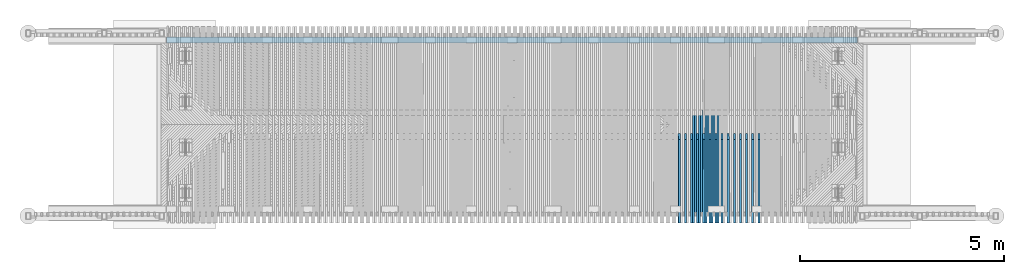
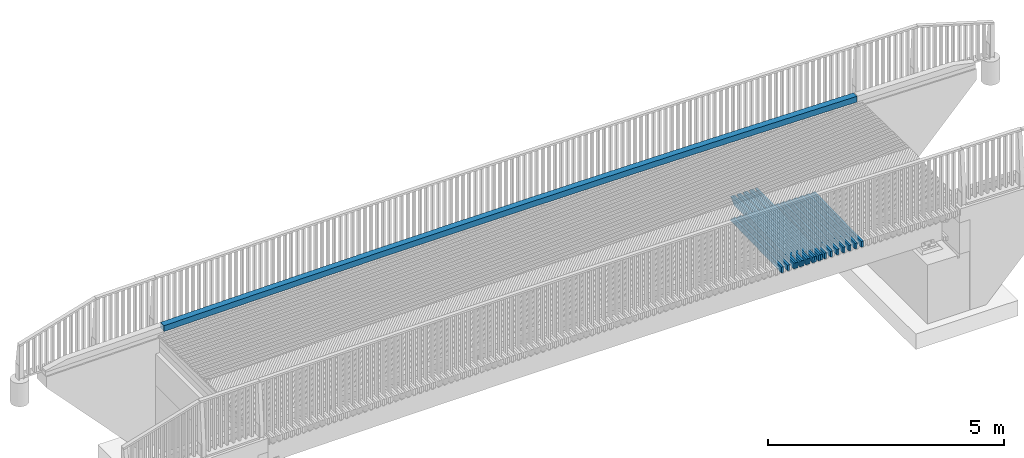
# One storey, part 36 of 47: 24 beams.
"""IFC2X3 building model written with IfcOpenShell, lengths in millimetres."""

from ifc_helpers import new_model, si_unit, frame, origin_with_axes, place, context, subcontext, project, spatial, faceted_brep, material, type_object, element, save


model = new_model("IFC2X3")

# Units and contexts
model_context = context("Model", 3, precision=1e-05, world=origin_with_axes())
body_context = subcontext(model_context, "Body", "Model", "MODEL_VIEW")
ifc_project = project(units=[si_unit("LENGTHUNIT", "METRE", prefix="MILLI"), si_unit("AREAUNIT", "SQUARE_METRE"), si_unit("VOLUMEUNIT", "CUBIC_METRE"), si_unit("MASSUNIT", "GRAM", prefix="KILO"), si_unit("TIMEUNIT", "SECOND"), si_unit("PLANEANGLEUNIT", "RADIAN"), si_unit("SOLIDANGLEUNIT", "STERADIAN"), si_unit("THERMODYNAMICTEMPERATUREUNIT", "DEGREE_CELSIUS"), si_unit("LUMINOUSINTENSITYUNIT", "LUMEN")], contexts=[model_context])

# Site, building, storey
site_placement = place(None, origin_with_axes())
site = spatial("IfcSite", under=ifc_project, at=site_placement, Name="Undefined", CompositionType="ELEMENT")
building_placement = place(site_placement, origin_with_axes())
building = spatial("IfcBuilding", under=site, at=building_placement, Name="Undefined", CompositionType="ELEMENT")
storey_placement = place(building_placement, origin_with_axes())
storey = spatial("IfcBuildingStorey", under=building, at=storey_placement, Name="Undefined", CompositionType="ELEMENT", Elevation=0.0)

# Beams
ifc_material = material(Name="TIMBER/Timber_Undefined")
beam_type_1 = type_object("IfcBeamType", Name="150*150", PredefinedType="NOTDEFINED")
beam_1_placement = place(storey_placement, frame((-101.638019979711, 64440.0049077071, 3288.62561019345), z_axis=(0.0, -1.0, 0.0), x_axis=(1.0, 0.0, 0.0)))
element("IfcBeam", 1, at=beam_1_placement, inside=storey, type_object=beam_type_1, material=ifc_material, Name="TÖRMÄYSJOHDE", ObjectType="150*150", context=body_context, shape_type="Brep", body=[
    faceted_brep([(-322.982711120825, -79.4552193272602, 75.0), (-325.088810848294, 70.5299944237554, 75.0), (-367.511180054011, 69.9228401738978, 75.0), (-368.361913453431, -80.1046921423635, 75.0), (-325.088810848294, 70.5299944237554, -75.0), (-367.511180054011, 69.9228401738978, -75.0), (-322.982711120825, -79.4552193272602, -75.0), (-368.361913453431, -80.1046921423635, -75.0), (1.01255045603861, -74.9931646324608, -75.0), (1.01255045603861, -74.9931646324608, 75.0), (-1.01255045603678, 74.9931646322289, 75.0), (-1.01255045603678, 74.9931646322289, -75.0), (323.066072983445, 79.2813189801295, -75.0), (325.010174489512, -70.7060820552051, -75.0), (325.010174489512, -70.7060820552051, 75.0), (323.066072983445, 79.2813189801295, 75.0), (647.146964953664, 83.3944562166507, 75.0), (647.146964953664, 83.3944562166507, -75.0), (649.010066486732, -66.5939728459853, -75.0), (649.010066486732, -66.5939728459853, 75.0), (973.012131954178, -62.6568382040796, 75.0), (971.230030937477, 87.3325751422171, 75.0), (971.230030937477, 87.3325751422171, -75.0), (973.012131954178, -62.6568382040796, -75.0), (1297.01627639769, -58.8946792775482, -75.0), (1297.01627639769, -58.8946792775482, 75.0), (1295.3151764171, 91.0956746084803, 75.0), (1295.3151764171, 91.0956746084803, -75.0), (1619.40230687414, 94.6837535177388, -75.0), (1621.0224053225, -55.3074971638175, -75.0), (1621.0224053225, -55.3074971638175, 75.0), (1619.40230687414, 94.6837535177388, 75.0), (1943.49132778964, 98.096810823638, 75.0), (1943.49132778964, 98.096810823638, -75.0), (1945.03042423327, -51.8952929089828, -75.0), (1945.03042423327, -51.8952929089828, 75.0), (2269.04023863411, -48.6580675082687, 75.0), (2267.58214464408, 101.334845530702, 75.0), (2267.58214464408, 101.334845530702, -75.0), (2269.04023863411, -48.6580675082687, -75.0), (2593.05175402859, -45.5958219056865, -75.0), (2593.05175402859, -45.5958219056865, 75.0), (2591.67466291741, 104.397856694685, 75.0), (2591.67466291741, 104.397856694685, -75.0), (2915.7687880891, 107.285843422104, -75.0), (2917.06487591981, -42.7085569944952, -75.0), (2917.06487591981, -42.7085569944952, 75.0), (2915.7687880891, 107.285843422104, 75.0), (3239.86442563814, 109.998804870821, 75.0), (3239.86442563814, 109.998804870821, -75.0), (3241.07950981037, -39.9962736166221, -75.0), (3241.07950981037, -39.9962736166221, 75.0), (3565.09556120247, -37.4589725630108, 75.0), (3563.96148104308, 112.536740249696, 75.0), (3563.96148104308, 112.536740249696, -75.0), (3565.09556120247, -37.4589725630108, -75.0), (3889.11293559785, -35.0966545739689, -75.0), (3889.11293559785, -35.0966545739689, 75.0), (3888.05985978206, 114.899648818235, 75.0), (3888.05985978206, 114.899648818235, -75.0), (4212.15946733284, 117.087529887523, -75.0), (4213.1315384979, -32.9093203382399, -75.0), (4213.1315384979, -32.9093203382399, 75.0), (4212.15946733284, 117.087529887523, 75.0), (4536.2602091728, 119.100382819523, 75.0), (4536.2602091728, 119.100382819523, -75.0), (4537.15127540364, -30.8969704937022, -75.0), (4537.15127540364, -30.8969704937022, 75.0), (4861.17205181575, -29.0596056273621, 75.0), (4860.36199077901, 120.938207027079, 75.0), (4860.36199077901, 120.938207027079, -75.0), (4861.17205181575, -29.0596056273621, -75.0), (5185.19377323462, -27.3972262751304, -75.0), (5185.19377323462, -27.3972262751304, 75.0), (5184.46471762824, 122.601001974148, 75.0), (5184.46471762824, 122.601001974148, -75.0), (5508.56829519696, 124.088767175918, -75.0), (5509.21634516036, -25.9098329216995, -75.0), (5509.21634516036, -25.9098329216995, 75.0), (5508.56829519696, 124.088767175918, 75.0), (5832.67262896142, 125.401502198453, 75.0), (5832.67262896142, 125.401502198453, -75.0), (5833.23967309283, -24.5974260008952, -75.0), (5833.23967309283, -24.5974260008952, 75.0), (6157.26366253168, -23.4600058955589, 75.0), (6156.77762439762, 126.539206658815, 75.0), (6156.77762439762, 126.539206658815, -75.0), (6157.26366253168, -23.4600058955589, -75.0), (6481.28821897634, -22.4975729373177, -75.0), (6481.28821897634, -22.4975729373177, 75.0), (6480.88318698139, 127.501880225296, 75.0), (6480.88318698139, 127.501880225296, -75.0), (6804.9892221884, 128.289522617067, -75.0), (6805.3132479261, -21.7101274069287, -75.0), (6805.3132479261, -21.7101274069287, 75.0), (6804.9892221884, 128.289522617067, 75.0), (7129.09563549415, 128.902133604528, 75.0), (7129.09563549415, 128.902133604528, -75.0), (7129.33865488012, -21.0976695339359, -75.0), (7129.33865488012, -21.0976695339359, 75.0), (7453.36434533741, -20.6601994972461, 75.0), (7453.20233237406, 129.339713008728, 75.0), (7453.20233237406, 129.339713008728, -75.0), (7453.36434533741, -20.6601994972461, -75.0), (7777.39022479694, -20.3977174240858, -75.0), (7777.39022479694, -20.3977174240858, 75.0), (7777.30921830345, 129.602260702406, 75.0), (7777.30921830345, 129.602260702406, -75.0), (8101.4161987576, 129.689776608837, -75.0), (8101.4161987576, -20.3102233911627, -75.0), (8101.4161987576, -20.3102233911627, 75.0), (8101.4161987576, 129.689776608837, 75.0), (8425.52317921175, 129.602260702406, 75.0), (8425.52317921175, 129.602260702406, -75.0), (8425.44217271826, -20.3977174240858, -75.0), (8425.44217271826, -20.3977174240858, 75.0), (8749.46805217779, -20.6601994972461, 75.0), (8749.63006514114, 129.339713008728, 75.0), (8749.63006514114, 129.339713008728, -75.0), (8749.46805217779, -20.6601994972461, -75.0), (9073.49374263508, -21.0976695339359, -75.0), (9073.49374263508, -21.0976695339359, 75.0), (9073.73676202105, 128.902133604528, 75.0), (9073.73676202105, 128.902133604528, -75.0), (9397.8431753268, 128.289522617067, -75.0), (9397.5191495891, -21.7101274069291, -75.0), (9397.5191495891, -21.7101274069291, 75.0), (9397.8431753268, 128.289522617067, 75.0), (9721.94921053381, 127.501880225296, 75.0), (9721.94921053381, 127.501880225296, -75.0), (9721.54417853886, -22.4975729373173, -75.0), (9721.54417853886, -22.4975729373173, 75.0), (10045.5687349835, -23.4600058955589, 75.0), (10046.0547731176, 126.539206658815, 75.0), (10046.0547731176, 126.539206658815, -75.0), (10045.5687349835, -23.4600058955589, -75.0), (10369.5927244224, -24.5974260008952, -75.0), (10369.5927244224, -24.5974260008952, 75.0), (10370.1597685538, 125.401502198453, 75.0), (10370.1597685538, 125.401502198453, -75.0), (10694.2641023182, 124.088767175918, -75.0), (10693.6160523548, -25.9098329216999, -75.0), (10693.6160523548, -25.9098329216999, 75.0), (10694.2641023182, 124.088767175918, 75.0), (11018.367679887, 122.601001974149, 75.0), (11018.367679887, 122.601001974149, -75.0), (11017.6386242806, -27.3972262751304, -75.0), (11017.6386242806, -27.3972262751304, 75.0), (11341.6603456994, -29.0596056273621, 75.0), (11342.4704067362, 120.938207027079, 75.0), (11342.4704067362, 120.938207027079, -75.0), (11341.6603456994, -29.0596056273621, -75.0), (11665.6811221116, -30.8969704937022, -75.0), (11665.6811221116, -30.8969704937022, 75.0), (11666.5721883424, 119.100382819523, 75.0), (11666.5721883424, 119.100382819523, -75.0), (11990.6729301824, 117.087529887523, -75.0), (11989.7008590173, -32.9093203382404, -75.0), (11989.7008590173, -32.9093203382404, 75.0), (11990.6729301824, 117.087529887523, 75.0), (12314.7725377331, 114.899648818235, 75.0), (12314.7725377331, 114.899648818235, -75.0), (12313.7194619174, -35.0966545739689, -75.0), (12313.7194619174, -35.0966545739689, 75.0), (12637.7368363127, -37.4589725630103, 75.0), (12638.8709164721, 112.536740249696, 75.0), (12638.8709164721, 112.536740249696, -75.0), (12637.7368363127, -37.4589725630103, -75.0), (12961.7528877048, -39.9962736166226, -75.0), (12961.7528877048, -39.9962736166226, 75.0), (12962.9679718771, 109.998804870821, 75.0), (12962.9679718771, 109.998804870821, -75.0), (13287.0636094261, 107.285843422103, -75.0), (13285.7675215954, -42.7085569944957, -75.0), (13285.7675215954, -42.7085569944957, 75.0), (13287.0636094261, 107.285843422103, 75.0), (13611.1577345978, 104.397856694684, 75.0), (13611.1577345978, 104.397856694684, -75.0), (13609.7806434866, -45.595821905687, -75.0), (13609.7806434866, -45.595821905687, 75.0), (13933.7921588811, -48.6580675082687, 75.0), (13935.2502528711, 101.334845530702, 75.0), (13935.2502528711, 101.334845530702, -75.0), (13933.7921588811, -48.6580675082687, -75.0), (14257.8019732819, -51.8952929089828, -75.0), (14257.8019732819, -51.8952929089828, 75.0), (14259.3410697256, 98.096810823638, 75.0), (14259.3410697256, 98.096810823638, -75.0), (14583.4300906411, 94.6837535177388, -75.0), (14581.8099921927, -55.307497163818, -75.0), (14581.8099921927, -55.307497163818, 75.0), (14583.4300906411, 94.6837535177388, 75.0), (14907.5172210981, 91.0956746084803, 75.0), (14907.5172210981, 91.0956746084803, -75.0), (14905.8161211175, -58.8946792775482, -75.0), (14905.8161211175, -58.8946792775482, 75.0), (15229.820265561, -62.6568382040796, 75.0), (15231.6023665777, 87.3325751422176, 75.0), (15231.6023665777, 87.3325751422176, -75.0), (15229.820265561, -62.6568382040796, -75.0), (15553.8223310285, -66.5939728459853, -75.0), (15553.8223310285, -66.5939728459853, 75.0), (15555.6854325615, 83.3944562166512, 75.0), (15555.6854325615, 83.3944562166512, -75.0), (15879.7663245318, 79.2813189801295, -75.0), (15877.8222230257, -70.7060820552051, -75.0), (15877.8222230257, -70.7060820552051, 75.0), (15879.7663245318, 79.2813189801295, 75.0), (16203.8449479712, 74.9931646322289, 75.0), (16203.8449479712, 74.9931646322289, -75.0), (16201.8198470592, -74.9931646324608, -75.0), (16201.8198470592, -74.9931646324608, 75.0), (16513.3537972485, -79.2803664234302, 75.0), (16515.4567816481, 70.7048910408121, 75.0), (16515.4567816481, 70.7048910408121, -75.0), (16513.3537972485, -79.2803664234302, -75.0), (16571.6382119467, -80.1127239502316, -75.0), (16571.6382119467, -80.1127239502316, 75.0), (16570.7872297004, 69.9147190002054, 75.0), (16570.7872297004, 69.9147190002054, -75.0)], [[[0, 1, 2, 3]], [[1, 4, 5, 2]], [[4, 6, 7, 5]], [[3, 2, 5, 7]], [[6, 0, 3, 7]], [[0, 6, 8, 9]], [[1, 0, 9, 10]], [[4, 1, 10, 11]], [[6, 4, 11, 8]], [[8, 11, 12, 13]], [[9, 8, 13, 14]], [[10, 9, 14, 15]], [[11, 10, 15, 12]], [[12, 15, 16, 17]], [[13, 12, 17, 18]], [[14, 13, 18, 19]], [[15, 14, 19, 16]], [[16, 19, 20, 21]], [[17, 16, 21, 22]], [[18, 17, 22, 23]], [[19, 18, 23, 20]], [[20, 23, 24, 25]], [[21, 20, 25, 26]], [[22, 21, 26, 27]], [[23, 22, 27, 24]], [[24, 27, 28, 29]], [[25, 24, 29, 30]], [[26, 25, 30, 31]], [[27, 26, 31, 28]], [[28, 31, 32, 33]], [[29, 28, 33, 34]], [[30, 29, 34, 35]], [[31, 30, 35, 32]], [[32, 35, 36, 37]], [[33, 32, 37, 38]], [[34, 33, 38, 39]], [[35, 34, 39, 36]], [[36, 39, 40, 41]], [[37, 36, 41, 42]], [[38, 37, 42, 43]], [[39, 38, 43, 40]], [[40, 43, 44, 45]], [[41, 40, 45, 46]], [[42, 41, 46, 47]], [[43, 42, 47, 44]], [[44, 47, 48, 49]], [[45, 44, 49, 50]], [[46, 45, 50, 51]], [[47, 46, 51, 48]], [[48, 51, 52, 53]], [[49, 48, 53, 54]], [[50, 49, 54, 55]], [[51, 50, 55, 52]], [[52, 55, 56, 57]], [[53, 52, 57, 58]], [[54, 53, 58, 59]], [[55, 54, 59, 56]], [[56, 59, 60, 61]], [[57, 56, 61, 62]], [[58, 57, 62, 63]], [[59, 58, 63, 60]], [[60, 63, 64, 65]], [[61, 60, 65, 66]], [[62, 61, 66, 67]], [[63, 62, 67, 64]], [[64, 67, 68, 69]], [[65, 64, 69, 70]], [[66, 65, 70, 71]], [[67, 66, 71, 68]], [[68, 71, 72, 73]], [[69, 68, 73, 74]], [[70, 69, 74, 75]], [[71, 70, 75, 72]], [[72, 75, 76, 77]], [[73, 72, 77, 78]], [[74, 73, 78, 79]], [[75, 74, 79, 76]], [[76, 79, 80, 81]], [[77, 76, 81, 82]], [[78, 77, 82, 83]], [[79, 78, 83, 80]], [[80, 83, 84, 85]], [[81, 80, 85, 86]], [[82, 81, 86, 87]], [[83, 82, 87, 84]], [[84, 87, 88, 89]], [[85, 84, 89, 90]], [[86, 85, 90, 91]], [[87, 86, 91, 88]], [[88, 91, 92, 93]], [[89, 88, 93, 94]], [[90, 89, 94, 95]], [[91, 90, 95, 92]], [[92, 95, 96, 97]], [[93, 92, 97, 98]], [[94, 93, 98, 99]], [[95, 94, 99, 96]], [[96, 99, 100, 101]], [[97, 96, 101, 102]], [[98, 97, 102, 103]], [[99, 98, 103, 100]], [[100, 103, 104, 105]], [[101, 100, 105, 106]], [[102, 101, 106, 107]], [[103, 102, 107, 104]], [[104, 107, 108, 109]], [[105, 104, 109, 110]], [[106, 105, 110, 111]], [[107, 106, 111, 108]], [[108, 111, 112, 113]], [[109, 108, 113, 114]], [[110, 109, 114, 115]], [[111, 110, 115, 112]], [[112, 115, 116, 117]], [[113, 112, 117, 118]], [[114, 113, 118, 119]], [[115, 114, 119, 116]], [[116, 119, 120, 121]], [[117, 116, 121, 122]], [[118, 117, 122, 123]], [[119, 118, 123, 120]], [[120, 123, 124, 125]], [[121, 120, 125, 126]], [[122, 121, 126, 127]], [[123, 122, 127, 124]], [[124, 127, 128, 129]], [[125, 124, 129, 130]], [[126, 125, 130, 131]], [[127, 126, 131, 128]], [[128, 131, 132, 133]], [[129, 128, 133, 134]], [[130, 129, 134, 135]], [[131, 130, 135, 132]], [[132, 135, 136, 137]], [[133, 132, 137, 138]], [[134, 133, 138, 139]], [[135, 134, 139, 136]], [[136, 139, 140, 141]], [[137, 136, 141, 142]], [[138, 137, 142, 143]], [[139, 138, 143, 140]], [[140, 143, 144, 145]], [[141, 140, 145, 146]], [[142, 141, 146, 147]], [[143, 142, 147, 144]], [[144, 147, 148, 149]], [[145, 144, 149, 150]], [[146, 145, 150, 151]], [[147, 146, 151, 148]], [[148, 151, 152, 153]], [[149, 148, 153, 154]], [[150, 149, 154, 155]], [[151, 150, 155, 152]], [[152, 155, 156, 157]], [[153, 152, 157, 158]], [[154, 153, 158, 159]], [[155, 154, 159, 156]], [[156, 159, 160, 161]], [[157, 156, 161, 162]], [[158, 157, 162, 163]], [[159, 158, 163, 160]], [[160, 163, 164, 165]], [[161, 160, 165, 166]], [[162, 161, 166, 167]], [[163, 162, 167, 164]], [[164, 167, 168, 169]], [[165, 164, 169, 170]], [[166, 165, 170, 171]], [[167, 166, 171, 168]], [[168, 171, 172, 173]], [[169, 168, 173, 174]], [[170, 169, 174, 175]], [[171, 170, 175, 172]], [[172, 175, 176, 177]], [[173, 172, 177, 178]], [[174, 173, 178, 179]], [[175, 174, 179, 176]], [[176, 179, 180, 181]], [[177, 176, 181, 182]], [[178, 177, 182, 183]], [[179, 178, 183, 180]], [[180, 183, 184, 185]], [[181, 180, 185, 186]], [[182, 181, 186, 187]], [[183, 182, 187, 184]], [[184, 187, 188, 189]], [[185, 184, 189, 190]], [[186, 185, 190, 191]], [[187, 186, 191, 188]], [[188, 191, 192, 193]], [[189, 188, 193, 194]], [[190, 189, 194, 195]], [[191, 190, 195, 192]], [[192, 195, 196, 197]], [[193, 192, 197, 198]], [[194, 193, 198, 199]], [[195, 194, 199, 196]], [[196, 199, 200, 201]], [[197, 196, 201, 202]], [[198, 197, 202, 203]], [[199, 198, 203, 200]], [[200, 203, 204, 205]], [[201, 200, 205, 206]], [[202, 201, 206, 207]], [[203, 202, 207, 204]], [[204, 207, 208, 209]], [[205, 204, 209, 210]], [[206, 205, 210, 211]], [[207, 206, 211, 208]], [[208, 211, 212, 213]], [[209, 208, 213, 214]], [[210, 209, 214, 215]], [[211, 210, 215, 212]], [[212, 215, 216, 217]], [[213, 212, 217, 218]], [[214, 213, 218, 219]], [[215, 214, 219, 216]], [[218, 217, 216, 219]]]),
])
beam_type_2 = type_object("IfcBeamType", Name="150*50", PredefinedType="NOTDEFINED")
for number, where, z_axis, x_axis, name in (
    (2, (14050.900176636, 59958.5561921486, 3057.57766201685), (0.00996890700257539, -0.0199960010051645, 0.999750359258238), (0.000199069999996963, 0.999800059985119, 0.0199950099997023), "BEAM"),
    (3, (13900.8788052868, 59958.5561921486, 3059.06705099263), (0.00971973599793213, -0.0199960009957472, 0.999752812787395), (0.000194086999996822, 0.999800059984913, 0.0199950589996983), "BEAM"),
    (4, (13750.8570673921, 59958.5561921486, 3060.51904964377), (0.00947056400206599, -0.0199960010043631, 0.999755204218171), (0.000189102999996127, 0.999800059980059, 0.0199951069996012), "BEAM"),
    (5, (13600.834972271, 59958.5561921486, 3061.93365787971), (0.00922139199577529, -0.0199960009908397, 0.999757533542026), (0.000184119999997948, 0.999800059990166, 0.0199951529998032), "BEAM"),
    (6, (13450.8125292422, 59958.5561921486, 3063.31087561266), (0.00897221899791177, -0.0199960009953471, 0.999759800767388), (0.000179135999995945, 0.999800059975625, 0.0199951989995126), "BEAM"),
    (7, (13300.7897476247, 59958.5561921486, 3064.65070275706), (0.00872304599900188, -0.0199960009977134, 0.9997620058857), (0.000174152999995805, 0.999800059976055, 0.0199952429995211), "BEAM"),
    (8, (13150.7666367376, 59958.5561921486, 3065.95313922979), (0.00847387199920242, -0.0199960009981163, 0.999764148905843), (0.000169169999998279, 0.99980005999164, 0.0199952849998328), "BEAM"),
):
    element("IfcBeam", number, at=place(storey_placement, frame(where, z_axis=z_axis, x_axis=x_axis)), inside=storey, type_object=beam_type_2, material=ifc_material, Name=name, ObjectType="150*50", context=body_context, shape_type="Brep", body=[
        faceted_brep([(6.18456397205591e-09, -24.9999999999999, -75.0000000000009), (-6.1918399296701e-09, -24.9999999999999, 74.9999999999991), (-6.19911588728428e-09, 25.0, 75.0), (6.18456397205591e-09, 24.9999999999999, -75.0), (2047.96936034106, -25.0000000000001, 75.0), (2047.96935975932, 25.0, 75.0), (2186.42645864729, 25.0, -75.0), (2186.42645915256, -25.0000000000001, -75.0)], [[[0, 1, 2, 3]], [[2, 1, 4, 5]], [[3, 2, 5, 6]], [[0, 3, 6, 7]], [[1, 0, 7, 4]], [[4, 7, 6, 5]]]),
    ])
beam_2_placement = place(storey_placement, frame((13050.7800197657, 59958.5561921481, 3066.79908474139), z_axis=(0.00839151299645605, -0.0199960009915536, 0.999764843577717), x_axis=(0.000167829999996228, 0.999800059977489, 0.0199952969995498)))
element("IfcBeam", 9, at=beam_2_placement, inside=storey, type_object=beam_type_2, material=ifc_material, Name="BEAM", ObjectType="150*50", context=body_context, shape_type="Brep", body=[
    faceted_brep([(6.18456397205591e-09, -24.9999999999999, -75.0000000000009), (-6.1918399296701e-09, -24.9999999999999, 74.9999999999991), (-6.19911588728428e-09, 25.0, 75.0), (6.18456397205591e-09, 24.9999999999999, -75.0), (2633.00494983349, 25.0000000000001, -75.0000000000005), (2633.00495050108, -24.9999999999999, -75.0000000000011), (2768.59248707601, -25.0, 60.5875366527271), (2408.42499905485, -25.0, 74.9999999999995), (2408.42501428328, 25.0000000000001, 74.9999999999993), (2768.5924870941, 25.0, 60.5875375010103)], [[[0, 1, 2, 3]], [[0, 3, 4, 5]], [[1, 0, 5, 6, 7]], [[2, 1, 7, 8]], [[4, 3, 2, 8, 9]], [[5, 4, 9, 6]], [[8, 7, 6, 9]]]),
])
beam_3_placement = place(storey_placement, frame((13000.7432058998, 59958.5561921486, 3067.21818494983), z_axis=(0.00822469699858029, -0.0199960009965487, 0.999766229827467), x_axis=(0.000164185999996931, 0.999800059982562, 0.0199953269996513)))
element("IfcBeam", 10, at=beam_3_placement, inside=storey, type_object=beam_type_2, material=ifc_material, Name="BEAM", ObjectType="150*50", context=body_context, shape_type="Brep", body=[
    faceted_brep([(6.18456397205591e-09, -24.9999999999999, -75.0000000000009), (-6.1918399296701e-09, -24.9999999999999, 74.9999999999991), (-6.19911588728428e-09, 25.0, 75.0), (6.18456397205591e-09, 24.9999999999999, -75.0), (2047.96936034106, -25.0000000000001, 75.0), (2047.96935975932, 25.0, 75.0), (2186.42645864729, 25.0, -75.0), (2186.42645915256, -25.0000000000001, -75.0)], [[[0, 1, 2, 3]], [[2, 1, 4, 5]], [[3, 2, 5, 6]], [[0, 3, 6, 7]], [[1, 0, 7, 4]], [[4, 7, 6, 5]]]),
])
beam_4_placement = place(storey_placement, frame((12950.7016783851, 60216.5046076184, 3072.78964680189), z_axis=(0.00822469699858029, -0.0199960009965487, 0.999766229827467), x_axis=(0.000164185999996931, 0.999800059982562, 0.0199953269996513)))
element("IfcBeam", 11, at=beam_4_placement, inside=storey, type_object=beam_type_2, material=ifc_material, Name="BEAM", ObjectType="150*50", context=body_context, shape_type="Brep", body=[
    faceted_brep([(6.18456397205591e-09, -24.9999999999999, -75.0000000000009), (-6.1918399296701e-09, -24.9999999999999, 74.9999999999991), (-6.19911588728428e-09, 25.0, 75.0), (6.18456397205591e-09, 24.9999999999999, -75.0), (2375.00494220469, 24.9999999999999, -75.0000000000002), (2375.00494218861, -25.0, -75.0), (2510.59248711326, -25.0, 60.5875455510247), (2150.42518973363, -25.0, 75.0000000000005), (2150.42518840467, 25.0, 74.9999999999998), (2510.59248707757, 25.0, 60.5875454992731)], [[[0, 1, 2, 3]], [[0, 3, 4, 5]], [[1, 0, 5, 6, 7]], [[2, 1, 7, 8]], [[4, 3, 2, 8, 9]], [[5, 4, 9, 6]], [[8, 7, 6, 9]]]),
])
beam_5_placement = place(storey_placement, frame((12900.7563811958, 59958.5561921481, 3068.03921046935), z_axis=(0.00814233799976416, -0.0199960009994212, 0.999766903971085), x_axis=(0.000162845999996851, 0.999800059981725, 0.0199953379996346)))
element("IfcBeam", 12, at=beam_5_placement, inside=storey, type_object=beam_type_2, material=ifc_material, Name="BEAM", ObjectType="150*50", context=body_context, shape_type="Brep", body=[
    faceted_brep([(6.18456397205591e-09, -24.9999999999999, -75.0000000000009), (-6.1918399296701e-09, -24.9999999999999, 74.9999999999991), (-6.19911588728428e-09, 25.0, 75.0), (6.18456397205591e-09, 24.9999999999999, -75.0), (2633.00494983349, 25.0000000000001, -75.0000000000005), (2633.00495050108, -24.9999999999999, -75.0000000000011), (2768.59248707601, -25.0, 60.5875366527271), (2408.42499905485, -25.0, 74.9999999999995), (2408.42501428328, 25.0000000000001, 74.9999999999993), (2768.5924870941, 25.0, 60.5875375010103)], [[[0, 1, 2, 3]], [[0, 3, 4, 5]], [[1, 0, 5, 6, 7]], [[2, 1, 7, 8]], [[4, 3, 2, 8, 9]], [[5, 4, 9, 6]], [[8, 7, 6, 9]]]),
])
beam_6_placement = place(storey_placement, frame((12850.7194644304, 59958.5561921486, 3068.44583983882), z_axis=(0.00797552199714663, -0.019996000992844, 0.999768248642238), x_axis=(0.000159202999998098, 0.999800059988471, 0.0199953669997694)))
element("IfcBeam", 13, at=beam_6_placement, inside=storey, type_object=beam_type_2, material=ifc_material, Name="BEAM", ObjectType="150*50", context=body_context, shape_type="Brep", body=[
    faceted_brep([(6.18456397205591e-09, -24.9999999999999, -75.0000000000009), (-6.1918399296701e-09, -24.9999999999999, 74.9999999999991), (-6.19911588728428e-09, 25.0, 75.0), (6.18456397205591e-09, 24.9999999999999, -75.0), (2047.96936034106, -25.0000000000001, 75.0), (2047.96935975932, 25.0, 75.0), (2186.42645864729, 25.0, -75.0), (2186.42645915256, -25.0000000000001, -75.0)], [[[0, 1, 2, 3]], [[2, 1, 4, 5]], [[3, 2, 5, 6]], [[0, 3, 6, 7]], [[1, 0, 7, 4]], [[4, 7, 6, 5]]]),
])
beam_7_placement = place(storey_placement, frame((12800.6765498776, 60216.5046076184, 3074.00482951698), z_axis=(0.00797552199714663, -0.019996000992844, 0.999768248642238), x_axis=(0.000159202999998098, 0.999800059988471, 0.0199953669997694)))
element("IfcBeam", 14, at=beam_7_placement, inside=storey, type_object=beam_type_2, material=ifc_material, Name="BEAM", ObjectType="150*50", context=body_context, shape_type="Brep", body=[
    faceted_brep([(6.18456397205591e-09, -24.9999999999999, -75.0000000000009), (-6.1918399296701e-09, -24.9999999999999, 74.9999999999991), (-6.19911588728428e-09, 25.0, 75.0), (6.18456397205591e-09, 24.9999999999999, -75.0), (2375.00494220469, 24.9999999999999, -75.0000000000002), (2375.00494218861, -25.0, -75.0), (2510.59248711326, -25.0, 60.5875455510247), (2150.42518973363, -25.0, 75.0000000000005), (2150.42518840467, 25.0, 74.9999999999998), (2510.59248707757, 25.0, 60.5875454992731)], [[[0, 1, 2, 3]], [[0, 3, 4, 5]], [[1, 0, 5, 6, 7]], [[2, 1, 7, 8]], [[4, 3, 2, 8, 9]], [[5, 4, 9, 6]], [[8, 7, 6, 9]]]),
])
beam_8_placement = place(storey_placement, frame((12750.7324382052, 59958.5561921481, 3069.24194531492), z_axis=(0.00789316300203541, -0.0199960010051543, 0.999768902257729), x_axis=(0.000157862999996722, 0.999800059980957, 0.0199953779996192)))
element("IfcBeam", 15, at=beam_8_placement, inside=storey, type_object=beam_type_2, material=ifc_material, Name="BEAM", ObjectType="150*50", context=body_context, shape_type="Brep", body=[
    faceted_brep([(6.18456397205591e-09, -24.9999999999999, -75.0000000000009), (-6.1918399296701e-09, -24.9999999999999, 74.9999999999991), (-6.19911588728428e-09, 25.0, 75.0), (6.18456397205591e-09, 24.9999999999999, -75.0), (2633.00494983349, 25.0000000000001, -75.0000000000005), (2633.00495050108, -24.9999999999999, -75.0000000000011), (2768.59248707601, -25.0, 60.5875366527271), (2408.42499905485, -25.0, 74.9999999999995), (2408.42501428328, 25.0000000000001, 74.9999999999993), (2768.5924870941, 25.0, 60.5875375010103)], [[[0, 1, 2, 3]], [[0, 3, 4, 5]], [[1, 0, 5, 6, 7]], [[2, 1, 7, 8]], [[4, 3, 2, 8, 9]], [[5, 4, 9, 6]], [[8, 7, 6, 9]]]),
])
beam_9_placement = place(storey_placement, frame((12700.6954216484, 59958.5561921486, 3069.63610382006), z_axis=(0.00772634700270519, -0.0199960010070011, 0.99977020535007), x_axis=(0.000154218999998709, 0.999800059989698, 0.0199954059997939)))
element("IfcBeam", 16, at=beam_9_placement, inside=storey, type_object=beam_type_2, material=ifc_material, Name="BEAM", ObjectType="150*50", context=body_context, shape_type="Brep", body=[
    faceted_brep([(6.18456397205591e-09, -24.9999999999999, -75.0000000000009), (-6.1918399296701e-09, -24.9999999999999, 74.9999999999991), (-6.19911588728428e-09, 25.0, 75.0), (6.18456397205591e-09, 24.9999999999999, -75.0), (2047.96936034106, -25.0000000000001, 75.0), (2047.96935975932, 25.0, 75.0), (2186.42645864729, 25.0, -75.0), (2186.42645915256, -25.0000000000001, -75.0)], [[[0, 1, 2, 3]], [[2, 1, 4, 5]], [[3, 2, 5, 6]], [[0, 3, 6, 7]], [[1, 0, 7, 4]], [[4, 7, 6, 5]]]),
])
beam_10_placement = place(storey_placement, frame((12650.6511231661, 60216.5046076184, 3075.18262097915), z_axis=(0.00772634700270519, -0.0199960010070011, 0.99977020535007), x_axis=(0.000154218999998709, 0.999800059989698, 0.0199954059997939)))
element("IfcBeam", 17, at=beam_10_placement, inside=storey, type_object=beam_type_2, material=ifc_material, Name="BEAM", ObjectType="150*50", context=body_context, shape_type="Brep", body=[
    faceted_brep([(6.18456397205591e-09, -24.9999999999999, -75.0000000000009), (-6.1918399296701e-09, -24.9999999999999, 74.9999999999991), (-6.19911588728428e-09, 25.0, 75.0), (6.18456397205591e-09, 24.9999999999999, -75.0), (2375.00494220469, 24.9999999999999, -75.0000000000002), (2375.00494218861, -25.0, -75.0), (2510.59248711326, -25.0, 60.5875455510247), (2150.42518973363, -25.0, 75.0000000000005), (2150.42518840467, 25.0, 74.9999999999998), (2510.59248707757, 25.0, 60.5875454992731)], [[[0, 1, 2, 3]], [[0, 3, 4, 5]], [[1, 0, 5, 6, 7]], [[2, 1, 7, 8]], [[4, 3, 2, 8, 9]], [[5, 4, 9, 6]], [[8, 7, 6, 9]]]),
])
beam_11_placement = place(storey_placement, frame((12600.7082001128, 59958.5561921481, 3070.40728920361), z_axis=(0.00764398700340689, -0.019996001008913, 0.999770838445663), x_axis=(0.000152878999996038, 0.999800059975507, 0.0199954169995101)))
element("IfcBeam", 18, at=beam_11_placement, inside=storey, type_object=beam_type_2, material=ifc_material, Name="BEAM", ObjectType="150*50", context=body_context, shape_type="Brep", body=[
    faceted_brep([(6.18456397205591e-09, -24.9999999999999, -75.0000000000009), (-6.1918399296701e-09, -24.9999999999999, 74.9999999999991), (-6.19911588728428e-09, 25.0, 75.0), (6.18456397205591e-09, 24.9999999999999, -75.0), (2633.00494983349, 25.0000000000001, -75.0000000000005), (2633.00495050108, -24.9999999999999, -75.0000000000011), (2768.59248707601, -25.0, 60.5875366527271), (2408.42499905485, -25.0, 74.9999999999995), (2408.42501428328, 25.0000000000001, 74.9999999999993), (2768.5924870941, 25.0, 60.5875375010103)], [[[0, 1, 2, 3]], [[0, 3, 4, 5]], [[1, 0, 5, 6, 7]], [[2, 1, 7, 8]], [[4, 3, 2, 8, 9]], [[5, 4, 9, 6]], [[8, 7, 6, 9]]]),
])
beam_12_placement = place(storey_placement, frame((12550.6710868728, 59958.5561921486, 3070.78897682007), z_axis=(0.00747717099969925, -0.019996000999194, 0.999772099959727), x_axis=(0.000149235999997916, 0.999800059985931, 0.0199954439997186)))
element("IfcBeam", 19, at=beam_12_placement, inside=storey, type_object=beam_type_2, material=ifc_material, Name="BEAM", ObjectType="150*50", context=body_context, shape_type="Brep", body=[
    faceted_brep([(6.18456397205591e-09, -24.9999999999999, -75.0000000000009), (-6.1918399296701e-09, -24.9999999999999, 74.9999999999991), (-6.19911588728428e-09, 25.0, 75.0), (6.18456397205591e-09, 24.9999999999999, -75.0), (2047.96936034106, -25.0000000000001, 75.0), (2047.96935975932, 25.0, 75.0), (2186.42645864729, 25.0, -75.0), (2186.42645915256, -25.0000000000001, -75.0)], [[[0, 1, 2, 3]], [[2, 1, 4, 5]], [[3, 2, 5, 6]], [[0, 3, 6, 7]], [[1, 0, 7, 4]], [[4, 7, 6, 5]]]),
])
beam_13_placement = place(storey_placement, frame((12500.6254075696, 60216.5046076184, 3076.3230211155), z_axis=(0.00747717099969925, -0.019996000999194, 0.999772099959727), x_axis=(0.000149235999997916, 0.999800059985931, 0.0199954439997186)))
element("IfcBeam", 20, at=beam_13_placement, inside=storey, type_object=beam_type_2, material=ifc_material, Name="BEAM", ObjectType="150*50", context=body_context, shape_type="Brep", body=[
    faceted_brep([(6.18456397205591e-09, -24.9999999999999, -75.0000000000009), (-6.1918399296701e-09, -24.9999999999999, 74.9999999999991), (-6.19911588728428e-09, 25.0, 75.0), (6.18456397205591e-09, 24.9999999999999, -75.0), (2375.00494220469, 24.9999999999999, -75.0000000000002), (2375.00494218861, -25.0, -75.0), (2510.59248711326, -25.0, 60.5875455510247), (2150.42518973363, -25.0, 75.0000000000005), (2150.42518840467, 25.0, 74.9999999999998), (2510.59248707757, 25.0, 60.5875454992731)], [[[0, 1, 2, 3]], [[0, 3, 4, 5]], [[1, 0, 5, 6, 7]], [[2, 1, 7, 8]], [[4, 3, 2, 8, 9]], [[5, 4, 9, 6]], [[8, 7, 6, 9]]]),
])
beam_14_placement = place(storey_placement, frame((12450.6836762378, 59958.5561921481, 3071.53524206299), z_axis=(0.00739481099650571, -0.0199960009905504, 0.999772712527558), x_axis=(0.000147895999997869, 0.999800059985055, 0.0199954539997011)))
element("IfcBeam", 21, at=beam_14_placement, inside=storey, type_object=beam_type_2, material=ifc_material, Name="BEAM", ObjectType="150*50", context=body_context, shape_type="Brep", body=[
    faceted_brep([(6.18456397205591e-09, -24.9999999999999, -75.0000000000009), (-6.1918399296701e-09, -24.9999999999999, 74.9999999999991), (-6.19911588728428e-09, 25.0, 75.0), (6.18456397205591e-09, 24.9999999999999, -75.0), (2633.00494983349, 25.0000000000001, -75.0000000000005), (2633.00495050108, -24.9999999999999, -75.0000000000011), (2768.59248707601, -25.0, 60.5875366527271), (2408.42499905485, -25.0, 74.9999999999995), (2408.42501428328, 25.0000000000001, 74.9999999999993), (2768.5924870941, 25.0, 60.5875375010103)], [[[0, 1, 2, 3]], [[0, 3, 4, 5]], [[1, 0, 5, 6, 7]], [[2, 1, 7, 8]], [[4, 3, 2, 8, 9]], [[5, 4, 9, 6]], [[8, 7, 6, 9]]]),
])
for number, where, z_axis, x_axis, name in (
    (22, (12400.6464694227, 59958.5561921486, 3071.90445876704), (0.00722799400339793, -0.0199960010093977, 0.999773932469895), (0.000144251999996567, 0.999800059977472, 0.0199954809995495), "BEAM"),
    (23, (12250.6215786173, 59958.5561921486, 3072.98254959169), (0.00697881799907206, -0.0199960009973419, 0.999775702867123), (0.000139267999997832, 0.99980005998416, 0.0199955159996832), "BEAM"),
    (24, (12100.5964237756, 59958.5561921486, 3074.02324922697), (0.00672964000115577, -0.019996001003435, 0.99977741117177), (0.000134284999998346, 0.999800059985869, 0.0199955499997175), "BEAM"),
):
    element("IfcBeam", number, at=place(storey_placement, frame(where, z_axis=z_axis, x_axis=x_axis)), inside=storey, type_object=beam_type_2, material=ifc_material, Name=name, ObjectType="150*50", context=body_context, shape_type="Brep", body=[
        faceted_brep([(6.18456397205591e-09, -24.9999999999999, -75.0000000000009), (-6.1918399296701e-09, -24.9999999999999, 74.9999999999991), (-6.19911588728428e-09, 25.0, 75.0), (6.18456397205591e-09, 24.9999999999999, -75.0), (2047.96936034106, -25.0000000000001, 75.0), (2047.96935975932, 25.0, 75.0), (2186.42645864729, 25.0, -75.0), (2186.42645915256, -25.0000000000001, -75.0)], [[[0, 1, 2, 3]], [[2, 1, 4, 5]], [[3, 2, 5, 6]], [[0, 3, 6, 7]], [[1, 0, 7, 4]], [[4, 7, 6, 5]]]),
    ])

save(model, "model.ifc")
